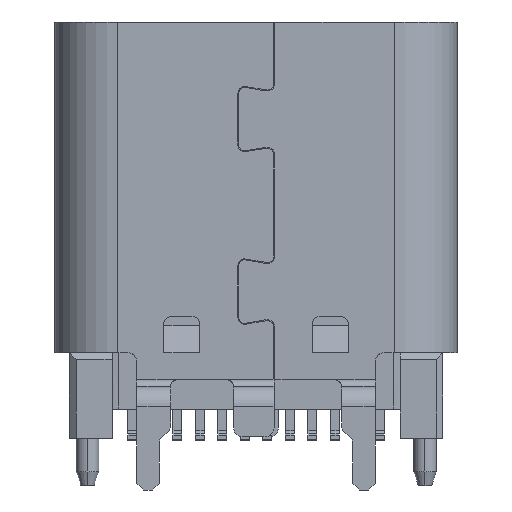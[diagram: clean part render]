
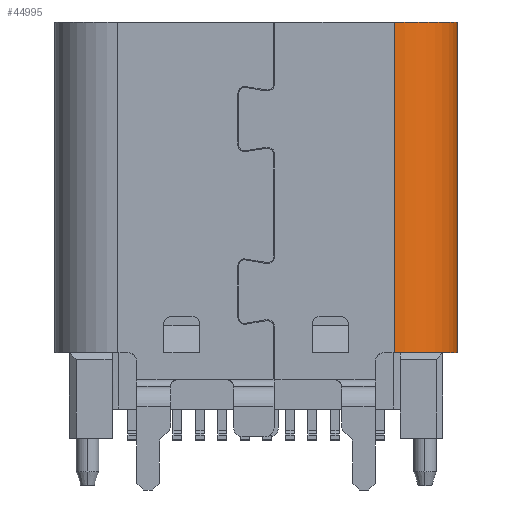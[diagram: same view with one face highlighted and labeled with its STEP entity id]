
A CAD part, front view. The second image highlights one B-rep face of the part: STEP entity #44995.
In plain terms, the highlighted cylindrical face has radius 1.4 mm (diameter 2.8 mm), a partial arc.
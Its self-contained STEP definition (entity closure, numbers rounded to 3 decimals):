
#1229 = CARTESIAN_POINT ( 'NONE',  ( -56.93, -2.231, -45.273 ) ) ;
#1562 = LINE ( 'NONE', #1229, #17479 ) ;
#4492 = DIRECTION ( 'NONE',  ( 1., 0., 0. ) ) ;
#7503 = VERTEX_POINT ( 'NONE', #34761 ) ;
#9490 = DIRECTION ( 'NONE',  ( 0., 0., 1. ) ) ;
#10148 = LINE ( 'NONE', #40687, #46451 ) ;
#11351 = EDGE_CURVE ( 'NONE', #7503, #31365, #17528, .T. ) ;
#12203 = EDGE_CURVE ( 'NONE', #56014, #31365, #1562, .T. ) ;
#14466 = DIRECTION ( 'NONE',  ( 0., 0., -1. ) ) ;
#14488 = EDGE_LOOP ( 'NONE', ( #25932, #31964, #53392, #37764 ) ) ;
#17479 = VECTOR ( 'NONE', #26800, 1000. ) ;
#17510 = DIRECTION ( 'NONE',  ( 0., -1., 0. ) ) ;
#17528 = CIRCLE ( 'NONE', #65295, 1.4 ) ;
#21580 = CARTESIAN_POINT ( 'NONE',  ( -58.33, -2.231, -45.273 ) ) ;
#22553 = DIRECTION ( 'NONE',  ( 0., 0., -1. ) ) ;
#24094 = CARTESIAN_POINT ( 'NONE',  ( -58.33, -2.231, -45.42 ) ) ;
#25932 = ORIENTED_EDGE ( 'NONE', *, *, #64673, .F. ) ;
#26800 = DIRECTION ( 'NONE',  ( 0., 0., 1. ) ) ;
#28534 = CARTESIAN_POINT ( 'NONE',  ( -56.93, -2.231, -37.923 ) ) ;
#29246 = AXIS2_PLACEMENT_3D ( 'NONE', #24094, #9490, #4492 ) ;
#31365 = VERTEX_POINT ( 'NONE', #28534 ) ;
#31964 = ORIENTED_EDGE ( 'NONE', *, *, #12203, .T. ) ;
#34761 = CARTESIAN_POINT ( 'NONE',  ( -58.33, -3.631, -37.923 ) ) ;
#37764 = ORIENTED_EDGE ( 'NONE', *, *, #47709, .T. ) ;
#38423 = DIRECTION ( 'NONE',  ( 0., 0., 1. ) ) ;
#40687 = CARTESIAN_POINT ( 'NONE',  ( -58.33, -3.631, -37.923 ) ) ;
#41232 = VERTEX_POINT ( 'NONE', #49627 ) ;
#44995 = ADVANCED_FACE ( 'NONE', ( #65650 ), #49354, .T. ) ;
#46451 = VECTOR ( 'NONE', #14466, 1000. ) ;
#47709 = EDGE_CURVE ( 'NONE', #7503, #41232, #10148, .T. ) ;
#47814 = DIRECTION ( 'NONE',  ( 1., 0., 0. ) ) ;
#49354 = CYLINDRICAL_SURFACE ( 'NONE', #29246, 1.4 ) ;
#49627 = CARTESIAN_POINT ( 'NONE',  ( -58.33, -3.631, -45.273 ) ) ;
#52773 = CIRCLE ( 'NONE', #53792, 1.4 ) ;
#53392 = ORIENTED_EDGE ( 'NONE', *, *, #11351, .F. ) ;
#53792 = AXIS2_PLACEMENT_3D ( 'NONE', #21580, #22553, #47814 ) ;
#56014 = VERTEX_POINT ( 'NONE', #61339 ) ;
#59018 = CARTESIAN_POINT ( 'NONE',  ( -58.33, -2.231, -37.923 ) ) ;
#61339 = CARTESIAN_POINT ( 'NONE',  ( -56.93, -2.231, -45.273 ) ) ;
#64673 = EDGE_CURVE ( 'NONE', #56014, #41232, #52773, .T. ) ;
#65295 = AXIS2_PLACEMENT_3D ( 'NONE', #59018, #38423, #17510 ) ;
#65650 = FACE_OUTER_BOUND ( 'NONE', #14488, .T. ) ;
